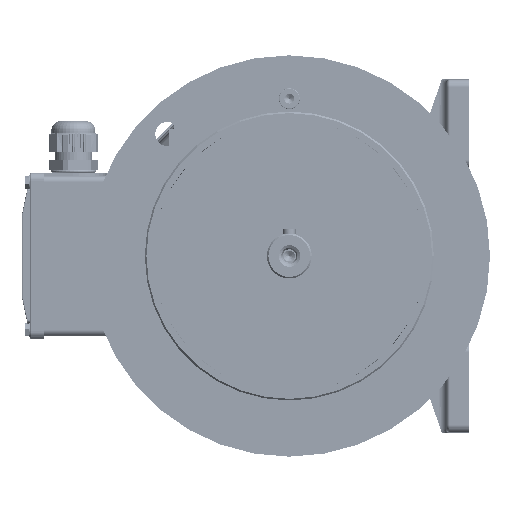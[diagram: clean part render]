
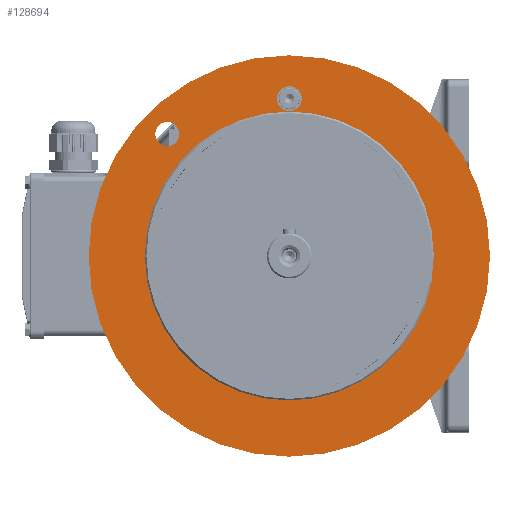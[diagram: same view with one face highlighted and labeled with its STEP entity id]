
A CAD part, left-side view. The second image highlights one B-rep face of the part: STEP entity #128694.
In plain terms, the highlighted planar face has unit normal (-1, 0, 0).
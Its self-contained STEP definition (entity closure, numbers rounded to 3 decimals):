
#2817 = VERTEX_POINT ( 'NONE', #47994 ) ;
#4695 = DIRECTION ( 'NONE',  ( 0., 0., -1. ) ) ;
#5964 = DIRECTION ( 'NONE',  ( 0., 0., -1. ) ) ;
#6464 = DIRECTION ( 'NONE',  ( 0., 0., 1. ) ) ;
#7398 = CIRCLE ( 'NONE', #92008, 90. ) ;
#9825 = EDGE_LOOP ( 'NONE', ( #123508, #67276 ) ) ;
#11732 = AXIS2_PLACEMENT_3D ( 'NONE', #68261, #90768, #4695 ) ;
#12344 = CARTESIAN_POINT ( 'NONE',  ( -16., 0., 98. ) ) ;
#12632 = VERTEX_POINT ( 'NONE', #43835 ) ;
#12914 = DIRECTION ( 'NONE',  ( 0., 0., 1. ) ) ;
#14249 = ORIENTED_EDGE ( 'NONE', *, *, #89513, .F. ) ;
#14609 = CIRCLE ( 'NONE', #38728, 7.75 ) ;
#16400 = AXIS2_PLACEMENT_3D ( 'NONE', #86877, #22710, #12914 ) ;
#18913 = DIRECTION ( 'NONE',  ( 1., 0., 0. ) ) ;
#21887 = ORIENTED_EDGE ( 'NONE', *, *, #64223, .T. ) ;
#22710 = DIRECTION ( 'NONE',  ( -1., 0., 0. ) ) ;
#23940 = CARTESIAN_POINT ( 'NONE',  ( -16., 0., 0. ) ) ;
#27815 = VERTEX_POINT ( 'NONE', #34717 ) ;
#29422 = ORIENTED_EDGE ( 'NONE', *, *, #37578, .T. ) ;
#31683 = CIRCLE ( 'NONE', #106692, 125. ) ;
#33330 = DIRECTION ( 'NONE',  ( 0., 0., -1. ) ) ;
#34393 = CARTESIAN_POINT ( 'NONE',  ( -16., 76.014, 68.514 ) ) ;
#34717 = CARTESIAN_POINT ( 'NONE',  ( -16., 0., -90. ) ) ;
#35747 = CIRCLE ( 'NONE', #87094, 7.5 ) ;
#36431 = EDGE_LOOP ( 'NONE', ( #50248, #62316 ) ) ;
#37578 = EDGE_CURVE ( 'NONE', #84547, #12632, #44157, .T. ) ;
#38728 = AXIS2_PLACEMENT_3D ( 'NONE', #12344, #88625, #119584 ) ;
#40725 = AXIS2_PLACEMENT_3D ( 'NONE', #93445, #123441, #5964 ) ;
#41144 = EDGE_CURVE ( 'NONE', #58500, #27815, #128816, .T. ) ;
#42218 = DIRECTION ( 'NONE',  ( -1., 0., 0. ) ) ;
#43835 = CARTESIAN_POINT ( 'NONE',  ( -16., 0., 105.75 ) ) ;
#44157 = CIRCLE ( 'NONE', #81299, 7.75 ) ;
#47994 = CARTESIAN_POINT ( 'NONE',  ( -16., 0., 125. ) ) ;
#50248 = ORIENTED_EDGE ( 'NONE', *, *, #126606, .T. ) ;
#52599 = DIRECTION ( 'NONE',  ( 0., 0., 1. ) ) ;
#54890 = DIRECTION ( 'NONE',  ( 0., 0., 1. ) ) ;
#58500 = VERTEX_POINT ( 'NONE', #61126 ) ;
#61126 = CARTESIAN_POINT ( 'NONE',  ( -16., 0., 90. ) ) ;
#62002 = VERTEX_POINT ( 'NONE', #34393 ) ;
#62316 = ORIENTED_EDGE ( 'NONE', *, *, #122219, .T. ) ;
#64223 = EDGE_CURVE ( 'NONE', #12632, #84547, #14609, .T. ) ;
#67276 = ORIENTED_EDGE ( 'NONE', *, *, #67318, .T. ) ;
#67318 = EDGE_CURVE ( 'NONE', #99007, #62002, #126254, .T. ) ;
#67510 = DIRECTION ( 'NONE',  ( 1., 0., 0. ) ) ;
#68122 = AXIS2_PLACEMENT_3D ( 'NONE', #23940, #120976, #54890 ) ;
#68152 = CARTESIAN_POINT ( 'NONE',  ( -16., 0., 90.25 ) ) ;
#68261 = CARTESIAN_POINT ( 'NONE',  ( -16., 90., 0. ) ) ;
#79998 = PLANE ( 'NONE',  #11732 ) ;
#81299 = AXIS2_PLACEMENT_3D ( 'NONE', #120992, #67510, #33330 ) ;
#82623 = DIRECTION ( 'NONE',  ( 0., 0., -1. ) ) ;
#84547 = VERTEX_POINT ( 'NONE', #68152 ) ;
#85161 = VERTEX_POINT ( 'NONE', #87410 ) ;
#86877 = CARTESIAN_POINT ( 'NONE',  ( -16., 0., 0. ) ) ;
#87094 = AXIS2_PLACEMENT_3D ( 'NONE', #105545, #18913, #82623 ) ;
#87410 = CARTESIAN_POINT ( 'NONE',  ( -16., 0., -125. ) ) ;
#88625 = DIRECTION ( 'NONE',  ( 1., 0., 0. ) ) ;
#89513 = EDGE_CURVE ( 'NONE', #27815, #58500, #7398, .T. ) ;
#89842 = FACE_BOUND ( 'NONE', #9825, .T. ) ;
#90768 = DIRECTION ( 'NONE',  ( 1., 0., 0. ) ) ;
#92008 = AXIS2_PLACEMENT_3D ( 'NONE', #117284, #42218, #52599 ) ;
#92223 = EDGE_LOOP ( 'NONE', ( #21887, #29422 ) ) ;
#93445 = CARTESIAN_POINT ( 'NONE',  ( -16., 76.014, 76.014 ) ) ;
#94209 = EDGE_CURVE ( 'NONE', #62002, #99007, #35747, .T. ) ;
#94922 = FACE_BOUND ( 'NONE', #136496, .T. ) ;
#99007 = VERTEX_POINT ( 'NONE', #125053 ) ;
#101533 = DIRECTION ( 'NONE',  ( -1., 0., 0. ) ) ;
#105545 = CARTESIAN_POINT ( 'NONE',  ( -16., 76.014, 76.014 ) ) ;
#106692 = AXIS2_PLACEMENT_3D ( 'NONE', #111341, #101533, #6464 ) ;
#111341 = CARTESIAN_POINT ( 'NONE',  ( -16., 0., 0. ) ) ;
#117284 = CARTESIAN_POINT ( 'NONE',  ( -16., 0., 0. ) ) ;
#119584 = DIRECTION ( 'NONE',  ( 0., 0., -1. ) ) ;
#119702 = CIRCLE ( 'NONE', #16400, 125. ) ;
#120976 = DIRECTION ( 'NONE',  ( -1., 0., 0. ) ) ;
#120992 = CARTESIAN_POINT ( 'NONE',  ( -16., 0., 98. ) ) ;
#122219 = EDGE_CURVE ( 'NONE', #85161, #2817, #119702, .T. ) ;
#122231 = ORIENTED_EDGE ( 'NONE', *, *, #41144, .F. ) ;
#123441 = DIRECTION ( 'NONE',  ( 1., 0., 0. ) ) ;
#123508 = ORIENTED_EDGE ( 'NONE', *, *, #94209, .T. ) ;
#125053 = CARTESIAN_POINT ( 'NONE',  ( -16., 76.014, 83.514 ) ) ;
#126254 = CIRCLE ( 'NONE', #40725, 7.5 ) ;
#126606 = EDGE_CURVE ( 'NONE', #2817, #85161, #31683, .T. ) ;
#128694 = ADVANCED_FACE ( 'NONE', ( #135181, #89842, #94922, #131829 ), #79998, .F. ) ;
#128816 = CIRCLE ( 'NONE', #68122, 90. ) ;
#131829 = FACE_OUTER_BOUND ( 'NONE', #36431, .T. ) ;
#135181 = FACE_BOUND ( 'NONE', #92223, .T. ) ;
#136496 = EDGE_LOOP ( 'NONE', ( #122231, #14249 ) ) ;
